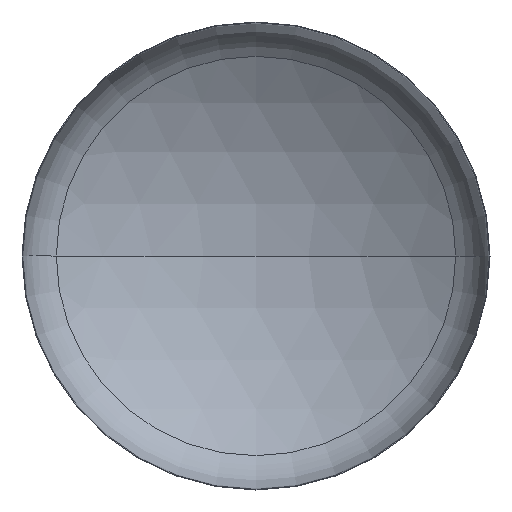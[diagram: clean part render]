
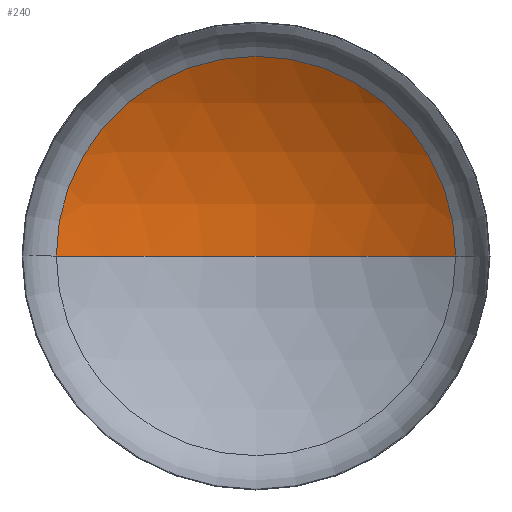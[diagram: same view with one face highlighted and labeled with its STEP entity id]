
A CAD part, front view. The second image highlights one B-rep face of the part: STEP entity #240.
In plain terms, the highlighted spherical face has radius 5600 mm.
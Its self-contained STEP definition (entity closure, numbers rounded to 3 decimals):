
#21 = DIRECTION ( 'NONE',  ( 0., 0., -1. ) ) ;
#24 = DIRECTION ( 'NONE',  ( -1., 0., 0. ) ) ;
#25 = AXIS2_PLACEMENT_3D ( 'NONE', #376, #21, #24 ) ;
#29 = CIRCLE ( 'NONE', #58, 5600. ) ;
#58 = AXIS2_PLACEMENT_3D ( 'NONE', #87, #79, #75 ) ;
#62 = AXIS2_PLACEMENT_3D ( 'NONE', #183, #157, #160 ) ;
#65 = VERTEX_POINT ( 'NONE', #270 ) ;
#66 = AXIS2_PLACEMENT_3D ( 'NONE', #196, #194, #195 ) ;
#75 = DIRECTION ( 'NONE',  ( 1., 0., 0. ) ) ;
#79 = DIRECTION ( 'NONE',  ( 0., 0., 1. ) ) ;
#80 = ORIENTED_EDGE ( 'NONE', *, *, #129, .F. ) ;
#87 = CARTESIAN_POINT ( 'NONE',  ( 0., -3793.281, 0. ) ) ;
#126 = EDGE_CURVE ( 'NONE', #272, #65, #305, .T. ) ;
#127 = EDGE_CURVE ( 'NONE', #189, #272, #245, .T. ) ;
#129 = EDGE_CURVE ( 'NONE', #189, #65, #29, .T. ) ;
#136 = CARTESIAN_POINT ( 'NONE',  ( 0., 1806.719, 0. ) ) ;
#152 = SPHERICAL_SURFACE ( 'NONE', #25, 5600. ) ;
#157 = DIRECTION ( 'NONE',  ( 0., 0., -1. ) ) ;
#160 = DIRECTION ( 'NONE',  ( -1., 0., 0. ) ) ;
#175 = EDGE_LOOP ( 'NONE', ( #80, #276, #324 ) ) ;
#183 = CARTESIAN_POINT ( 'NONE',  ( 0., -3793.281, 0. ) ) ;
#189 = VERTEX_POINT ( 'NONE', #136 ) ;
#194 = DIRECTION ( 'NONE',  ( 0., -1., 0. ) ) ;
#195 = DIRECTION ( 'NONE',  ( 1., 0., 0. ) ) ;
#196 = CARTESIAN_POINT ( 'NONE',  ( 0., 943.527, 0. ) ) ;
#222 = FACE_OUTER_BOUND ( 'NONE', #175, .T. ) ;
#240 = ADVANCED_FACE ( 'NONE', ( #222 ), #152, .F. ) ;
#245 = CIRCLE ( 'NONE', #62, 5600. ) ;
#270 = CARTESIAN_POINT ( 'NONE',  ( -2987.08, 943.527, 0. ) ) ;
#272 = VERTEX_POINT ( 'NONE', #372 ) ;
#276 = ORIENTED_EDGE ( 'NONE', *, *, #127, .T. ) ;
#305 = CIRCLE ( 'NONE', #66, 2987.08 ) ;
#324 = ORIENTED_EDGE ( 'NONE', *, *, #126, .T. ) ;
#372 = CARTESIAN_POINT ( 'NONE',  ( 2987.08, 943.527, 0. ) ) ;
#376 = CARTESIAN_POINT ( 'NONE',  ( 0., -3793.281, 0. ) ) ;
